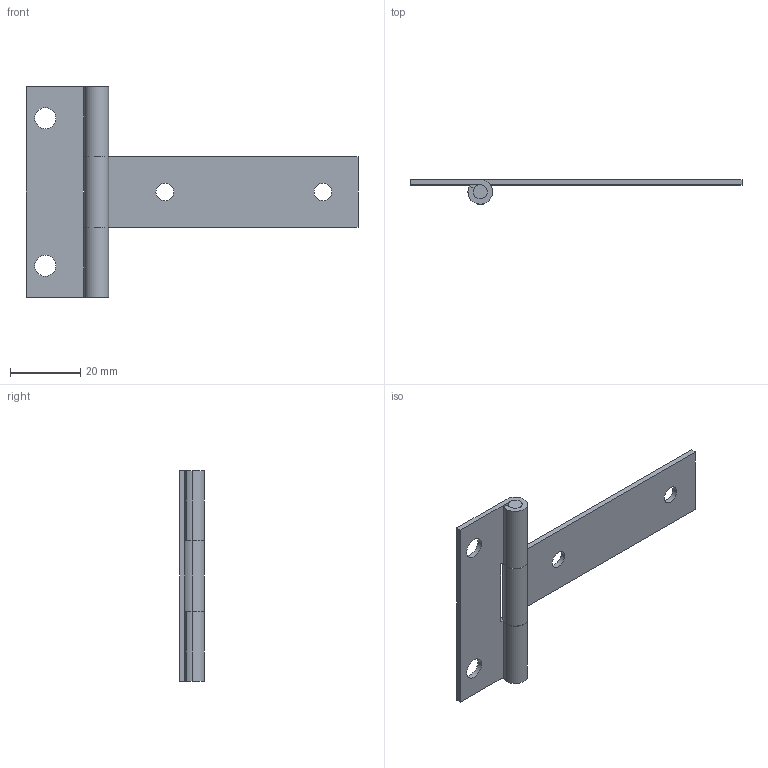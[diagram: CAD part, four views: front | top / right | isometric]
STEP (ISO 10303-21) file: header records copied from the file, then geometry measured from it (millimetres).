
FILE_DESCRIPTION((''),'2;1');
FILE_NAME('6106.stp','2011-05-27T10:25:23',(''),(''),'Mechanical Desktop 2006','Mechanical Desktop 2006',', , ');
FILE_SCHEMA(('CONFIG_CONTROL_DESIGN'));
Length unit declared in the file: millimetre
Products named in the file (3): 6106; TEIL1; TEIL2
Assembly tree (2 placements, depth 2):
  6106
    TEIL1
    TEIL2
Bounding box: 94.5 x 7 x 60 mm (x, y, z)
Volume: 5820.4 mm3; surface area: 7884.3 mm2
Topology: 2 solids, 2 shells, 44 faces, 120 edges, 80 vertices
Faces by surface type: cylinder 26, plane 18
Entity records: 1559 total; most frequent: DIRECTION 270, CARTESIAN_POINT 247, ORIENTED_EDGE 240, EDGE_CURVE 120, AXIS2_PLACEMENT_3D 103, VERTEX_POINT 80, VECTOR 64, LINE 64
